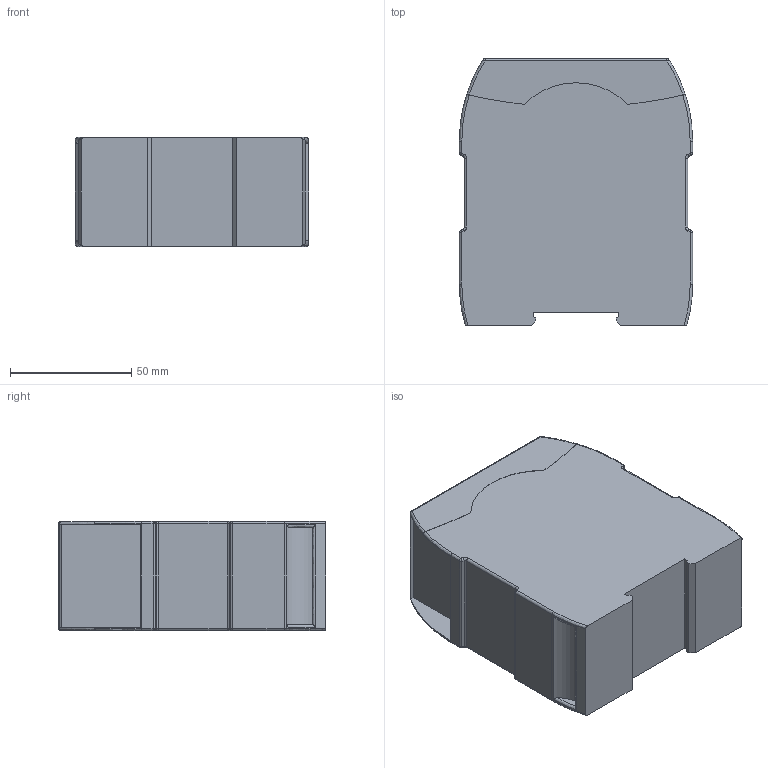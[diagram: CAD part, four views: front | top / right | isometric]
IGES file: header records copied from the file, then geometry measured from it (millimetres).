
Start section:  PTC IGES file: 2023043
Global section: file name: 2023043; native system: Creo Parametric by PTC Inc.; preprocessor: 2019292; author: l.merz; organization: Unknown; date: 20210608.061123; units: millimetre
Bounding box: 96 x 110.2 x 45 mm (x, y, z)
Surface area: 40453.5 mm2 (no closed solid volume)
Topology: 0 solids, 0 shells, 159 faces, 768 edges, 768 vertices
Faces by surface type: revolution 84, bspline 75
